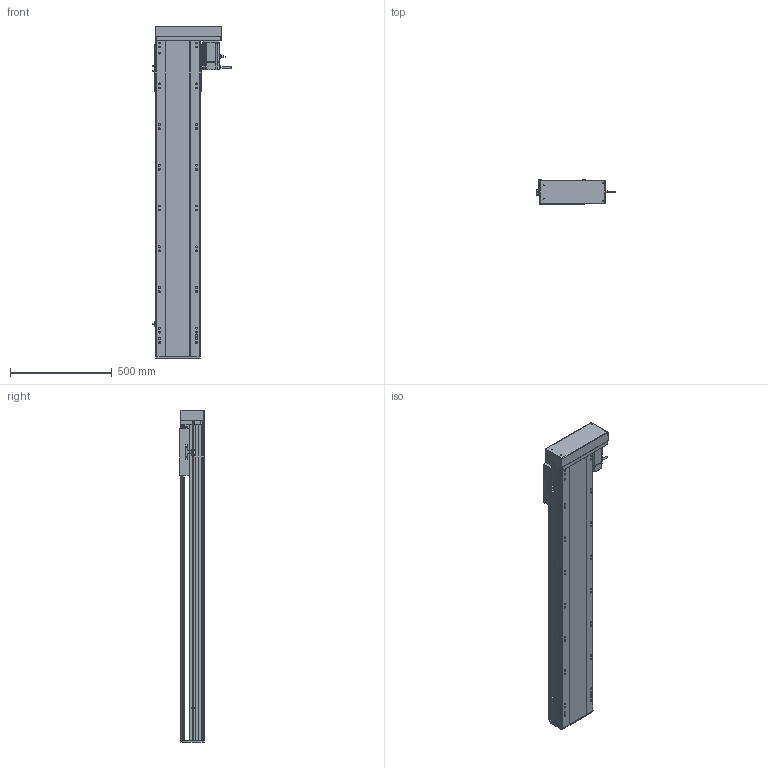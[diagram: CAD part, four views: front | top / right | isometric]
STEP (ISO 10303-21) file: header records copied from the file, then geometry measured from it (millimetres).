
FILE_DESCRIPTION (( 'STEP AP214' ), '1' );
FILE_NAME ('RTH22-XX-1250-L-M75-C4.STEP', '2025-10-24T11:02:12', ( 'Microsoft' ), ( 'Microsoft' ), 'SwSTEP 2.0', 'SolidWorks 2018', '' );
FILE_SCHEMA (( 'AUTOMOTIVE_DESIGN' ));
Length unit declared in the file: millimetre
Products named in the file (10): N_OMRON EE-SX672 传感器^RTH22-XX-XX-L-M75-C4; N_RTH22-L-018裔赽^RTH22-XX-XX-L-M75-C4; RTH22-XX-1250-L-M75-C4; N_RTH22-L-007奻裔^RTH22-XX-XX-L-M75-C4; N_RTH22-L-004-SFS25賑釱^RTH22-XX-XX-L-M75-C4; N_RTH22-GY-001耜裔^RTH22-XX-XX-L-M75-C4; N_RTH22-GY-013外置感应片^RTH22-XX-XX-L-M75-C4; N_750W萇儂^RTH22-XX-XX-L-M75-C4; N_RTH22-L-011菁釱^RTH22-XX-XX-L-M75-C4; N_RTH22-L-008-P75萇儂啣^RTH22-XX-XX-L-M75-C4
Assembly tree (11 placements, depth 2):
  RTH22-XX-1250-L-M75-C4
    N_RTH22-L-011菁釱^RTH22-XX-XX-L-M75-C4
    N_RTH22-GY-001耜裔^RTH22-XX-XX-L-M75-C4
    N_750W萇儂^RTH22-XX-XX-L-M75-C4
    N_RTH22-L-008-P75萇儂啣^RTH22-XX-XX-L-M75-C4
    N_RTH22-L-007奻裔^RTH22-XX-XX-L-M75-C4
    N_RTH22-L-018裔赽^RTH22-XX-XX-L-M75-C4
    N_OMRON EE-SX672 传感器^RTH22-XX-XX-L-M75-C4  x3
    N_RTH22-GY-013外置感应片^RTH22-XX-XX-L-M75-C4
    N_RTH22-L-004-SFS25賑釱^RTH22-XX-XX-L-M75-C4
Bounding box: 384.7 x 122 x 1629.7 mm (x, y, z)
Volume: 21814854 mm3; surface area: 2405047.8 mm2
Topology: 11 solids, 11 shells, 1642 faces, 4479 edges, 2881 vertices
Faces by surface type: plane 799, cylinder 494, bspline 279, cone 70
Entity records: 41651 total; most frequent: CARTESIAN_POINT 12558, ORIENTED_EDGE 5910, DIRECTION 5625, EDGE_CURVE 2955, VERTEX_POINT 1917, AXIS2_PLACEMENT_3D 1912, VECTOR 1801, LINE 1801
